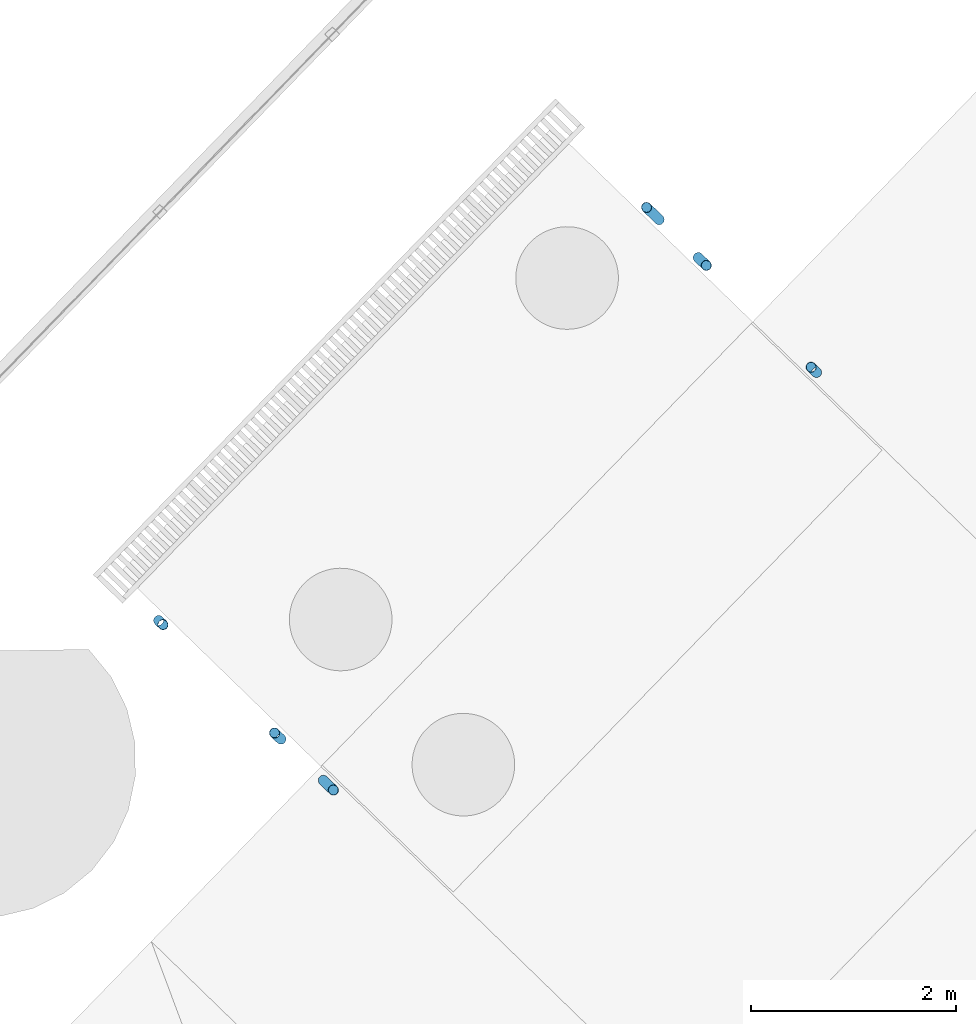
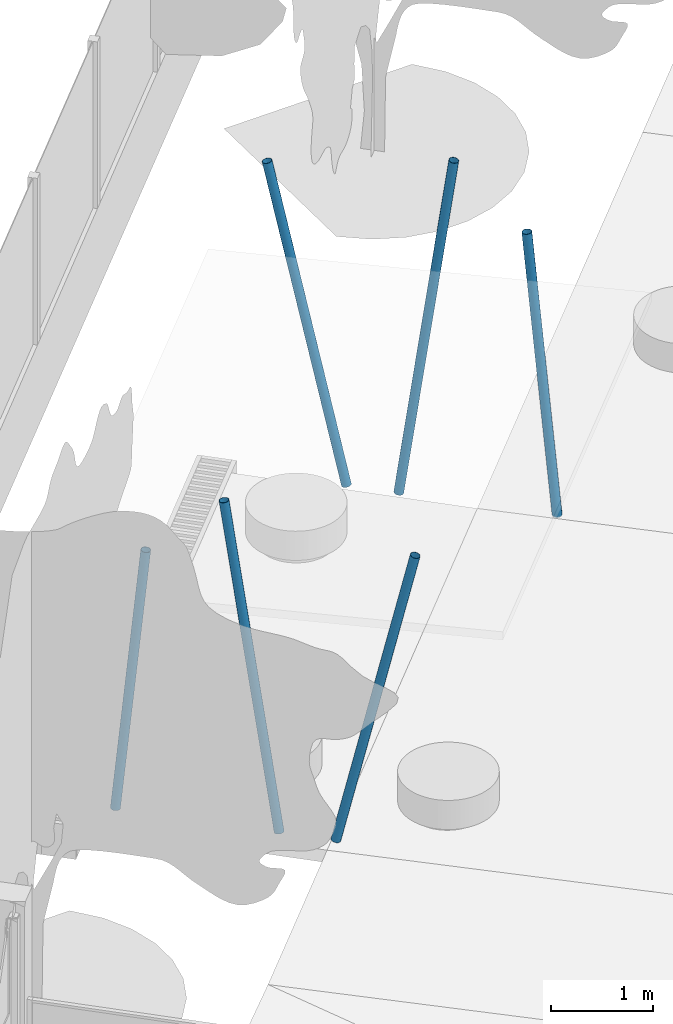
# One storey, part 1 of 37: 6 columns.
"""IFC2X3 building model written with IfcOpenShell, lengths in centimetres."""

import ifcopenshell
import ifcopenshell.guid

model = None  # the IFC model being written
_history = None  # IfcOwnerHistory: only IFC2X3 demands one
_inside = {}  # id of a spatial element -> (the spatial element, [elements in it])
_under = {}  # id of a project, library or spatial element -> (it, [spatial elements below it])
_declared = {}  # id of a project -> (the project, [libraries it declares])
_typed = {}  # id of a type object -> (the type object, [elements of that type])
_made_of = {}  # id of a material, layer set ... -> (it, [elements and type objects made of it])


def new_model(schema):
    """Start an empty IFC model of exactly this schema.

    Asked for "IFC4X3", IfcOpenShell would pick the latest addendum, in which some entities
    have other attributes; the version numbers below select the first issue.
    IFC2X3 requires an IfcOwnerHistory on every rooted entity: one is made here for all.
    """
    global model, _history
    if schema == "IFC4X3":
        model = ifcopenshell.file(schema_version=(4, 3, 0, 0))
    else:
        model = ifcopenshell.file(schema=schema)
    _inside.clear()
    _under.clear()
    _declared.clear()
    _typed.clear()
    _made_of.clear()
    _history = None
    if model.schema == "IFC2X3":
        org = make("IfcOrganization", Name="unknown")
        user = make(
            "IfcPersonAndOrganization",
            ThePerson=make("IfcPerson", FamilyName="unknown"),
            TheOrganization=org,
        )
        app = make(
            "IfcApplication",
            ApplicationDeveloper=org,
            Version="unknown",
            ApplicationFullName="unknown",
            ApplicationIdentifier="unknown",
        )
        _history = make(
            "IfcOwnerHistory",
            OwningUser=user,
            OwningApplication=app,
            ChangeAction="ADDED",
            CreationDate=0,
        )
    return model


def make(cls, **values):
    """One entity of the class cls with the attributes given. An attribute that is None is left unset."""
    return model.create_entity(
        cls, **{name: value for name, value in values.items() if value is not None}
    )


def entity(cls, *values):
    """Any entity or typed value of the class cls, its attributes in the order of the schema. None: left unset."""
    e = model.create_entity(cls)
    for i, value in enumerate(values):
        if value is not None:
            e[i] = value
    return e


def rooted(cls, **values):
    """An entity with a GlobalId (a new one), such as an element, a storey or a relation."""
    return make(cls, GlobalId=ifcopenshell.guid.new(), OwnerHistory=_history, **values)


def si_unit(unit_type, name, prefix=None):
    """IfcSIUnit, for example si_unit("LENGTHUNIT", "METRE", prefix="MILLI")."""
    return make("IfcSIUnit", UnitType=unit_type, Prefix=prefix, Name=name)


def converted_unit(unit_type, name, factor, base, dimensions=None, offset=None):
    """IfcConversionBasedUnit, such as the inch: factor (a typed value) times the base unit."""
    return make(
        "IfcConversionBasedUnit"
        if offset is None
        else "IfcConversionBasedUnitWithOffset",
        ConversionOffset=offset,
        Dimensions=None
        if dimensions is None
        else entity("IfcDimensionalExponents", *dimensions),
        UnitType=unit_type,
        Name=name,
        ConversionFactor=make(
            "IfcMeasureWithUnit", ValueComponent=factor, UnitComponent=base
        ),
    )


def derived_unit(unit_type, elements):
    """IfcDerivedUnit: a product of units, each with its exponent."""
    return make(
        "IfcDerivedUnit",
        Elements=[
            make("IfcDerivedUnitElement", Unit=unit, Exponent=power)
            for unit, power in elements
        ],
        UnitType=unit_type,
    )


def assignment(units):
    """IfcUnitAssignment: the units of a project."""
    return None if units is None else make("IfcUnitAssignment", Units=units)


def point(xyz):
    """IfcCartesianPoint."""
    return None if xyz is None else make("IfcCartesianPoint", Coordinates=xyz)


def direction(xyz):
    """IfcDirection."""
    return None if xyz is None else make("IfcDirection", DirectionRatios=xyz)


def frame(location, z_axis=None, x_axis=None):
    """IfcAxis2Placement3D, a coordinate frame: its origin and axes. An axis left out is left unset."""
    return make(
        "IfcAxis2Placement3D",
        Location=point(location),
        Axis=direction(z_axis),
        RefDirection=direction(x_axis),
    )


def frame_2d(location, x_axis=None):
    """IfcAxis2Placement2D, a coordinate frame in the plane: its origin and x axis."""
    return make(
        "IfcAxis2Placement2D", Location=point(location), RefDirection=direction(x_axis)
    )


def origin():
    """The frame at (0, 0, 0) with its axes left unset."""
    return frame((0.0, 0.0, 0.0))


def origin_2d_with_axis():
    """The frame at (0, 0) in the plane with the x axis (1, 0) written out."""
    return frame_2d((0.0, 0.0), x_axis=(1.0, 0.0))


def place(relative_to, where):
    """IfcLocalPlacement: puts the frame where relative to a parent placement (None: the world)."""
    return make(
        "IfcLocalPlacement", PlacementRelTo=relative_to, RelativePlacement=where
    )


def context(
    kind, dimensions, precision=None, world=None, true_north=None, identifier=None
):
    """IfcGeometricRepresentationContext, for example the 3D "Model" context."""
    return make(
        "IfcGeometricRepresentationContext",
        ContextIdentifier=identifier,
        ContextType=kind,
        CoordinateSpaceDimension=dimensions,
        Precision=precision,
        WorldCoordinateSystem=world,
        TrueNorth=true_north,
    )


def subcontext(parent, identifier, kind, view, scale=None):
    """IfcGeometricRepresentationSubContext, for example "Body" below "Model"."""
    return make(
        "IfcGeometricRepresentationSubContext",
        ContextIdentifier=identifier,
        ContextType=kind,
        ParentContext=parent,
        TargetScale=scale,
        TargetView=view,
    )


def project(units=None, contexts=None):
    """IfcProject with its units and contexts."""
    return rooted(
        "IfcProject",
        Name="project",
        RepresentationContexts=contexts,
        UnitsInContext=assignment(units),
    )


def spatial(cls, under=None, at=None, **own):
    """A site, building, storey or space (cls), placed at a placement, below another one or the project."""
    s = rooted(cls, ObjectPlacement=at, **own)
    if under is not None:
        _under.setdefault(under.id(), (under, []))[1].append(s)
    return s


def profile(cls, at=None, kind="AREA", **sizes):
    """A parametric profile (cls). Its sizes go by their IFC names, for example OverallWidth=200.0."""
    return make(cls, ProfileType=kind, Position=at, **sizes)


def hollow_circle(**sizes):
    """IfcCircleHollowProfileDef."""
    return profile("IfcCircleHollowProfileDef", **sizes)


def extrude(swept, where, along, depth):
    """IfcExtrudedAreaSolid: the profile swept, set in the frame where, extruded along a direction by depth."""
    return make(
        "IfcExtrudedAreaSolid",
        SweptArea=swept,
        Position=where,
        ExtrudedDirection=direction(along),
        Depth=depth,
    )


def shape(context_of_items, identifier, shape_type, items):
    """IfcShapeRepresentation: the items that make up one representation, for example the "Body"."""
    return make(
        "IfcShapeRepresentation",
        ContextOfItems=context_of_items,
        RepresentationIdentifier=identifier,
        RepresentationType=shape_type,
        Items=items,
    )


def source(mapping_origin, context_of_items, identifier, shape_type, items):
    """IfcRepresentationMap: a shape defined once, which mapped items show again and again."""
    return make(
        "IfcRepresentationMap",
        MappingOrigin=mapping_origin,
        MappedRepresentation=shape(context_of_items, identifier, shape_type, items),
    )


def transform(
    local_origin,
    x_axis=None,
    y_axis=None,
    z_axis=None,
    scale=None,
    scale2=None,
    scale3=None,
    uniform=True,
):
    """IfcCartesianTransformationOperator3D, or its non-uniform kind. x_axis, y_axis, z_axis: its Axis1, 2, 3."""
    if uniform:
        return make(
            "IfcCartesianTransformationOperator3D",
            Axis1=direction(x_axis),
            Axis2=direction(y_axis),
            LocalOrigin=point(local_origin),
            Scale=scale,
            Axis3=direction(z_axis),
        )
    return make(
        "IfcCartesianTransformationOperator3DnonUniform",
        Axis1=direction(x_axis),
        Axis2=direction(y_axis),
        LocalOrigin=point(local_origin),
        Scale=scale,
        Axis3=direction(z_axis),
        Scale2=scale2,
        Scale3=scale3,
    )


def mapped(mapping_source, mapping_target):
    """IfcMappedItem: shows the shape of a source again, moved by a transform."""
    return make(
        "IfcMappedItem", MappingSource=mapping_source, MappingTarget=mapping_target
    )


def material(Name=None, Category=None):
    """IfcMaterial."""
    return make("IfcMaterial", Name=Name, Category=Category)


def made_of(thing, what):
    """Note that an element or type object is made of a material, layer set ...; save() writes the relation."""
    if what is not None:
        _made_of.setdefault(what.id(), (what, []))[1].append(thing)
    return thing


def type_object(cls, material=None, **own):
    """A type object (cls), such as IfcWallType, which elements share."""
    return made_of(rooted(cls, **own), material)


def type_shapes(of_type, sources):
    """Give a type object the sources (RepresentationMaps) that its elements show as mapped items."""
    of_type.RepresentationMaps = sources


def element(
    cls,
    number,
    at=None,
    inside=None,
    cuts=None,
    type_object=None,
    material=None,
    context=None,
    identifier="Body",
    shape_type=None,
    held_by="IfcProductDefinitionShape",
    body=None,
    shapes=None,
    **own,
):
    """One element of the class cls, such as IfcWall. Its Tag is "e" and its number.

    at: its placement. inside: the storey or other place that contains it. cuts: it is an
    opening in that element (IfcRelVoidsElement). A single representation is given by context,
    identifier, shape_type and body (its items); several are given by shapes. held_by: the class
    of the entity that holds the representations. save() writes the other relations.
    """
    e = rooted(cls, Tag="e%d" % number, ObjectPlacement=at, **own)
    if body is not None:
        shapes = [shape(context, identifier, shape_type, body)]
    if shapes is not None:
        e.Representation = make(held_by, Representations=shapes)
    if inside is not None:
        _inside.setdefault(inside.id(), (inside, []))[1].append(e)
    if cuts is not None:
        rooted(
            "IfcRelVoidsElement", RelatingBuildingElement=cuts, RelatedOpeningElement=e
        )
    if type_object is not None:
        _typed.setdefault(type_object.id(), (type_object, []))[1].append(e)
    return made_of(e, material)


def aggregate(whole, parts):
    """IfcRelAggregates: a whole, such as a stair, and the parts it consists of."""
    return rooted("IfcRelAggregates", RelatingObject=whole, RelatedObjects=parts)


def save(model, path):
    """Write the relations noted so far, then the file.

    IfcRelAggregates (storeys below a building ...), IfcRelContainedInSpatialStructure (elements
    in a storey), IfcRelDefinesByType, IfcRelAssociatesMaterial and IfcRelDeclares: one each for
    every whole, place, type object, material and project.
    """
    for whole, parts in _under.values():
        aggregate(whole, parts)
    for where, things in _inside.values():
        rooted(
            "IfcRelContainedInSpatialStructure",
            RelatedElements=things,
            RelatingStructure=where,
        )
    for kind, things in _typed.values():
        rooted("IfcRelDefinesByType", RelatedObjects=things, RelatingType=kind)
    for what, things in _made_of.values():
        rooted("IfcRelAssociatesMaterial", RelatedObjects=things, RelatingMaterial=what)
    for by, libraries in _declared.values():
        rooted("IfcRelDeclares", RelatingContext=by, RelatedDefinitions=libraries)
    model.write(path)


model = new_model("IFC2X3")

# Units and contexts
model_context = context("Model", 3, precision=0.001, world=origin(), true_north=direction((0.717475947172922, 0.696583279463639)))
body_context = subcontext(model_context, "Body", "Model", "MODEL_VIEW")
ifc_project = project(units=[si_unit("LENGTHUNIT", "METRE", prefix="CENTI"), si_unit("AREAUNIT", "SQUARE_METRE"), si_unit("VOLUMEUNIT", "CUBIC_METRE"), converted_unit("PLANEANGLEUNIT", "DEGREE", entity("IfcRatioMeasure", 0.0174532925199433), si_unit("PLANEANGLEUNIT", "RADIAN"), dimensions=[0, 0, 0, 0, 0, 0, 0]), si_unit("MASSUNIT", "GRAM", prefix="KILO"), derived_unit("MASSDENSITYUNIT", [(si_unit("MASSUNIT", "GRAM", prefix="KILO"), 1), (si_unit("LENGTHUNIT", "METRE"), -3)]), si_unit("TIMEUNIT", "SECOND"), si_unit("FREQUENCYUNIT", "HERTZ"), si_unit("THERMODYNAMICTEMPERATUREUNIT", "DEGREE_CELSIUS"), derived_unit("THERMALTRANSMITTANCEUNIT", [(si_unit("MASSUNIT", "GRAM", prefix="KILO"), 1), (si_unit("THERMODYNAMICTEMPERATUREUNIT", "KELVIN"), -1), (si_unit("TIMEUNIT", "SECOND"), -3)]), derived_unit("VOLUMETRICFLOWRATEUNIT", [(si_unit("LENGTHUNIT", "METRE"), 3), (si_unit("TIMEUNIT", "SECOND"), -1)]), si_unit("ELECTRICCURRENTUNIT", "AMPERE"), si_unit("ELECTRICVOLTAGEUNIT", "VOLT"), si_unit("POWERUNIT", "WATT"), si_unit("FORCEUNIT", "NEWTON", prefix="KILO"), si_unit("ILLUMINANCEUNIT", "LUX"), si_unit("LUMINOUSFLUXUNIT", "LUMEN"), si_unit("LUMINOUSINTENSITYUNIT", "CANDELA"), derived_unit("USERDEFINED", [(si_unit("MASSUNIT", "GRAM", prefix="KILO"), -1), (si_unit("LENGTHUNIT", "METRE"), -2), (si_unit("TIMEUNIT", "SECOND"), 3), (si_unit("LUMINOUSFLUXUNIT", "LUMEN"), 1)]), derived_unit("LINEARVELOCITYUNIT", [(si_unit("LENGTHUNIT", "METRE"), 1), (si_unit("TIMEUNIT", "SECOND"), -1)]), si_unit("PRESSUREUNIT", "PASCAL"), derived_unit("USERDEFINED", [(si_unit("LENGTHUNIT", "METRE"), -2), (si_unit("MASSUNIT", "GRAM", prefix="KILO"), 1), (si_unit("TIMEUNIT", "SECOND"), -2)])], contexts=[model_context])

# Site, building, storey
site_placement = place(None, frame((0.0, 0.0, 0.0), z_axis=(0.0, 0.0, 1.0), x_axis=(0.696583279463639, 0.717475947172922, 0.0)))
site = spatial("IfcSite", under=ifc_project, at=site_placement, Name="Surface", CompositionType="ELEMENT")
building_placement = place(site_placement, origin())
building = spatial("IfcBuilding", under=site, at=building_placement, CompositionType="ELEMENT")
storey_placement = place(building_placement, origin())
storey = spatial("IfcBuildingStorey", under=building, at=storey_placement, Name="Nivel 0.00", CompositionType="ELEMENT", Elevation=0.0)

# Columns
ifc_material_1 = material(Name="METAL_VERDE")
column_type_1 = type_object("IfcColumnType", Name="114.3x3CHS", PredefinedType="COLUMN", material=ifc_material_1)
shared_shape_1 = source(origin(), body_context, "Body", "SweptSolid", [
    extrude(hollow_circle(Radius=4.99999999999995, WallThickness=0.29999999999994, at=origin_2d_with_axis()), frame((-1143.55886216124, 791.228313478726, 160.0), z_axis=(0.0, -0.0972430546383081, 0.995260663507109), x_axis=(1.0, 0.0, 0.0)), (0.0, 0.0, 1.0), 316.5),
])
type_shapes(column_type_1, [shared_shape_1])
column_1_placement = place(storey_placement, origin())
element("IfcColumn", 1, at=column_1_placement, inside=storey, type_object=column_type_1, material=ifc_material_1, Name="CHS-Circular Hollow Section-Column:114.3x3CHS", ObjectType="114.3x3CHS", context=body_context, shape_type="MappedRepresentation", body=[
    mapped(shared_shape_1, transform((0.0, 0.0, 0.0), scale=1.0)),
])
ifc_material_2 = material(Name="METAL_CELESTE")
column_type_2 = type_object("IfcColumnType", Name="114.3x3CHS", PredefinedType="COLUMN", material=ifc_material_2)
shared_shape_2 = source(origin(), body_context, "Body", "SweptSolid", [
    extrude(hollow_circle(Radius=4.99999999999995, WallThickness=0.29999999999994, at=origin_2d_with_axis()), frame((-1143.51947610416, 625.293068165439, 160.0), z_axis=(0.0, 0.142492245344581, 0.989795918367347), x_axis=(-1.0, 0.0, 0.0)), (0.0, 0.0, 1.0), 392.0),
])
type_shapes(column_type_2, [shared_shape_2])
column_2_placement = place(storey_placement, origin())
element("IfcColumn", 2, at=column_2_placement, inside=storey, type_object=column_type_2, material=ifc_material_2, Name="CHS-Circular Hollow Section-Column:114.3x3CHS", ObjectType="114.3x3CHS", context=body_context, shape_type="MappedRepresentation", body=[
    mapped(shared_shape_2, transform((0.0, 0.0, 0.0), scale=1.0)),
])
ifc_material_3 = material(Name="METAL_AMARILLO")
column_type_3 = type_object("IfcColumnType", Name="114.3x3CHS", PredefinedType="COLUMN", material=ifc_material_3)
shared_shape_3 = source(origin(), body_context, "Body", "SweptSolid", [
    extrude(hollow_circle(Radius=4.99999999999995, WallThickness=0.29999999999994, at=origin_2d_with_axis()), frame((-1143.51947610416, 567.674200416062, 160.0), z_axis=(0.0, -0.220995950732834, 0.975274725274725), x_axis=(1.0, 0.0, 0.0)), (0.0, 0.0, 1.0), 364.0),
])
type_shapes(column_type_3, [shared_shape_3])
column_3_placement = place(storey_placement, origin())
element("IfcColumn", 3, at=column_3_placement, inside=storey, type_object=column_type_3, material=ifc_material_3, Name="CHS-Circular Hollow Section-Column:114.3x3CHS", ObjectType="114.3x3CHS", context=body_context, shape_type="MappedRepresentation", body=[
    mapped(shared_shape_3, transform((0.0, 0.0, 0.0), scale=1.0)),
])
ifc_material_4 = material(Name="METAL_NARANJO")
column_type_4 = type_object("IfcColumnType", Name="114.3x3CHS", PredefinedType="COLUMN", material=ifc_material_4)
shared_shape_4 = source(origin(), body_context, "Body", "SweptSolid", [
    extrude(hollow_circle(Radius=4.99999999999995, WallThickness=0.29999999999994, at=origin_2d_with_axis()), frame((-523.519476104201, 713.372979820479, 140.0), z_axis=(0.0, 0.20974193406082, 0.977756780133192), x_axis=(-1.0, 0.0, 0.0)), (0.0, 0.0, 1.0), 383.530963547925),
])
type_shapes(column_type_4, [shared_shape_4])
column_4_placement = place(storey_placement, origin())
element("IfcColumn", 4, at=column_4_placement, inside=storey, type_object=column_type_4, material=ifc_material_4, Name="CHS-Circular Hollow Section-Column:114.3x3CHS", ObjectType="114.3x3CHS", context=body_context, shape_type="MappedRepresentation", body=[
    mapped(shared_shape_4, transform((0.0, 0.0, 0.0), scale=1.0)),
])
ifc_material_5 = material(Name="METAL_ROJO")
column_type_5 = type_object("IfcColumnType", Name="114.3x3CHS", PredefinedType="COLUMN", material=ifc_material_5)
shared_shape_5 = source(origin(), body_context, "Body", "SweptSolid", [
    extrude(hollow_circle(Radius=4.99999999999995, WallThickness=0.29999999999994, at=origin_2d_with_axis()), frame((-523.519476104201, 499.711450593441, 140.0), z_axis=(0.0, 0.0914876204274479, 0.995806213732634), x_axis=(-1.0, 0.0, 0.0)), (0.0, 0.0, 1.0), 336.410835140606),
])
type_shapes(column_type_5, [shared_shape_5])
column_5_placement = place(storey_placement, origin())
element("IfcColumn", 5, at=column_5_placement, inside=storey, type_object=column_type_5, material=ifc_material_5, Name="CHS-Circular Hollow Section-Column:114.3x3CHS", ObjectType="114.3x3CHS", context=body_context, shape_type="MappedRepresentation", body=[
    mapped(shared_shape_5, transform((0.0, 0.0, 0.0), scale=1.0)),
])
ifc_material_6 = material(Name="METAL_ROSA")
column_type_6 = type_object("IfcColumnType", Name="114.3x3CHS", PredefinedType="COLUMN", material=ifc_material_6)
shared_shape_6 = source(origin(), body_context, "Body", "SweptSolid", [
    extrude(hollow_circle(Radius=4.99999999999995, WallThickness=0.29999999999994, at=origin_2d_with_axis()), frame((-523.519476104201, 660.339235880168, 140.0), z_axis=(0.0, -0.135639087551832, 0.990758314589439), x_axis=(1.0, 0.0, 0.0)), (0.0, 0.0, 1.0), 411.805779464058),
])
type_shapes(column_type_6, [shared_shape_6])
column_6_placement = place(storey_placement, origin())
element("IfcColumn", 6, at=column_6_placement, inside=storey, type_object=column_type_6, material=ifc_material_6, Name="CHS-Circular Hollow Section-Column:114.3x3CHS", ObjectType="114.3x3CHS", context=body_context, shape_type="MappedRepresentation", body=[
    mapped(shared_shape_6, transform((0.0, 0.0, 0.0), scale=1.0)),
])

save(model, "model.ifc")
